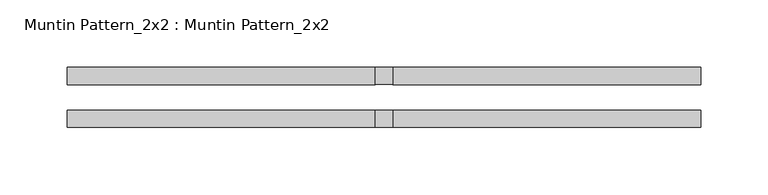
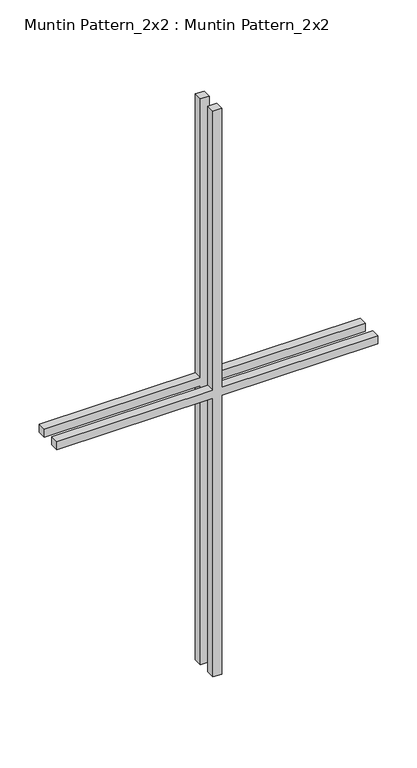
"""IFC4 building model written with IfcOpenShell, lengths in millimetres: proxy geometry, Muntin Pattern_2x2 : Muntin Pattern_2x2."""

from ifc_helpers import new_model, si_unit, frame, origin, place, context, project, spatial, polyline, outline, extrude, source, transform, mapped, element, save


def muntin_pattern_2x2_muntin_pattern_2x2_64ee3ad5(model_context):
    return source(origin(), model_context, "Body", "SweptSolid", [
        extrude(outline(polyline([(444.5, -6.35), (444.5, -234.95), (431.8, -234.95), (431.8, -6.35), (0.0, -6.35), (0.0, 6.35), (431.8, 6.35), (431.8, 234.95), (444.5, 234.95), (444.5, 6.35), (876.3, 6.35), (876.3, -6.35), (444.5, -6.35)])), frame((0.0, -22.225, 0.0), z_axis=(0.0, 1.0, 0.0), x_axis=(0.0, 0.0, 1.0)), (0.0, 0.0, 1.0), 12.7),
        extrude(outline(polyline([(444.5, -6.35), (444.5, -234.95), (431.8, -234.95), (431.8, -6.35), (0.0, -6.35), (0.0, 6.35), (431.8, 6.35), (431.8, 234.95), (444.5, 234.95), (444.5, 6.35), (876.3, 6.35), (876.3, -6.35), (444.5, -6.35)])), frame((0.0, 9.525, 0.0), z_axis=(0.0, 1.0, 0.0), x_axis=(0.0, 0.0, 1.0)), (0.0, 0.0, 1.0), 12.7),
    ])


if __name__ == "__main__":
    model = new_model("IFC4")
    model_context = context("Model", 3, world=origin())
    ifc_project = project(units=[si_unit("LENGTHUNIT", "METRE", prefix="MILLI")], contexts=[model_context])
    site = spatial("IfcSite", under=ifc_project)
    building = spatial("IfcBuilding", under=site)
    placement = place(None, origin())
    muntin_pattern_2x2_muntin_pattern_2x2_shape = muntin_pattern_2x2_muntin_pattern_2x2_64ee3ad5(model_context)
    element("IfcBuildingElementProxy", 1, Name="Muntin Pattern_2x2 : Muntin Pattern_2x2", ObjectType="Muntin Pattern_2x2 : Muntin Pattern_2x2", at=placement, inside=building, context=model_context, shape_type="MappedRepresentation", body=[
        mapped(muntin_pattern_2x2_muntin_pattern_2x2_shape, transform((0.0, 0.0, 0.0), x_axis=(1.0, 0.0, 0.0), y_axis=(0.0, 1.0, 0.0), z_axis=(0.0, 0.0, 1.0))),
    ])
    save(model, "model.ifc")
